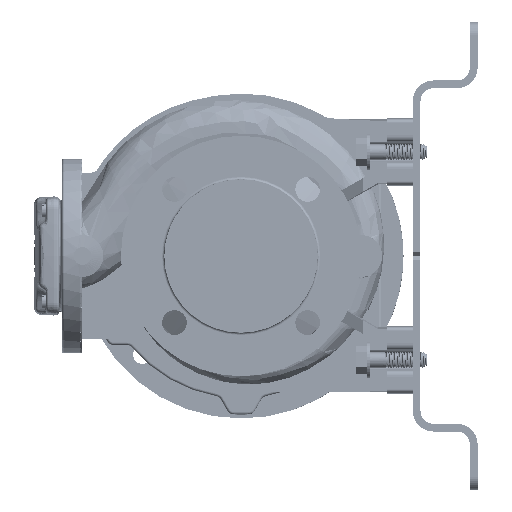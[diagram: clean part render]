
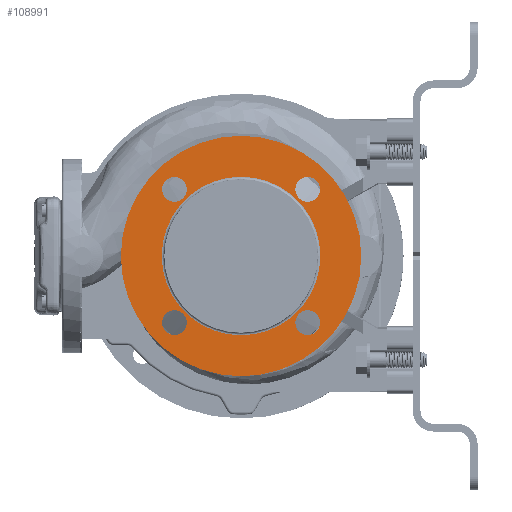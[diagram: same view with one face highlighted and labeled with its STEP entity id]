
A CAD part, left-side view. The second image highlights one B-rep face of the part: STEP entity #108991.
In plain terms, the highlighted planar face has unit normal (-1, 0, 0).
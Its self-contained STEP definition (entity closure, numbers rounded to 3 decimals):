
#244 = CARTESIAN_POINT ( 'NONE',  ( -145.172, 117.924, 305.51 ) ) ;
#10655 = ORIENTED_EDGE ( 'NONE', *, *, #70232, .T. ) ;
#11379 = DIRECTION ( 'NONE',  ( -1., 0., 0. ) ) ;
#13608 = ORIENTED_EDGE ( 'NONE', *, *, #145361, .F. ) ;
#14553 = ORIENTED_EDGE ( 'NONE', *, *, #141093, .F. ) ;
#15740 = DIRECTION ( 'NONE',  ( -1., 0., 0. ) ) ;
#16733 = AXIS2_PLACEMENT_3D ( 'NONE', #134077, #195449, #42757 ) ;
#16862 = CIRCLE ( 'NONE', #119906, 61. ) ;
#17533 = CARTESIAN_POINT ( 'NONE',  ( -145.172, 210.954, 305.51 ) ) ;
#21343 = DIRECTION ( 'NONE',  ( 0., 1., 0. ) ) ;
#25344 = CARTESIAN_POINT ( 'NONE',  ( -145.172, 220.454, 202.98 ) ) ;
#25512 = EDGE_CURVE ( 'NONE', #180375, #138981, #186936, .T. ) ;
#26509 = DIRECTION ( 'NONE',  ( 0., 0., -1. ) ) ;
#27076 = CARTESIAN_POINT ( 'NONE',  ( -145.172, 108.189, 254.245 ) ) ;
#29177 = DIRECTION ( 'NONE',  ( -1., 0., 0. ) ) ;
#30927 = CARTESIAN_POINT ( 'NONE',  ( -145.172, 127.424, 202.98 ) ) ;
#32546 = CARTESIAN_POINT ( 'NONE',  ( -145.172, 230.189, 254.245 ) ) ;
#32707 = CIRCLE ( 'NONE', #109836, 92.5 ) ;
#35417 = EDGE_LOOP ( 'NONE', ( #10655, #193227 ) ) ;
#36608 = EDGE_LOOP ( 'NONE', ( #14553, #13608 ) ) ;
#38274 = CARTESIAN_POINT ( 'NONE',  ( -145.172, 76.689, 254.245 ) ) ;
#38552 = CARTESIAN_POINT ( 'NONE',  ( -145.172, 169.189, 254.245 ) ) ;
#41509 = DIRECTION ( 'NONE',  ( -1., 0., 0. ) ) ;
#42270 = CARTESIAN_POINT ( 'NONE',  ( -145.172, 108.424, 202.98 ) ) ;
#42744 = CARTESIAN_POINT ( 'NONE',  ( -145.172, 230.189, 254.245 ) ) ;
#42757 = DIRECTION ( 'NONE',  ( 0., 1., 0. ) ) ;
#42865 = CARTESIAN_POINT ( 'NONE',  ( -145.172, 229.954, 202.98 ) ) ;
#46588 = PLANE ( 'NONE',  #115184 ) ;
#52411 = DIRECTION ( 'NONE',  ( -1., 0., 0. ) ) ;
#52419 = EDGE_CURVE ( 'NONE', #155518, #83356, #135887, .T. ) ;
#53370 = CIRCLE ( 'NONE', #62973, 92.5 ) ;
#53593 = DIRECTION ( 'NONE',  ( 0., -1., 0. ) ) ;
#54743 = FACE_BOUND ( 'NONE', #108951, .T. ) ;
#55053 = DIRECTION ( 'NONE',  ( 0., -1., 0. ) ) ;
#55910 = VERTEX_POINT ( 'NONE', #42270 ) ;
#57369 = EDGE_LOOP ( 'NONE', ( #139936, #197416 ) ) ;
#57995 = CARTESIAN_POINT ( 'NONE',  ( -145.172, 169.189, 254.245 ) ) ;
#58083 = DIRECTION ( 'NONE',  ( 0., 0., 1. ) ) ;
#58511 = CARTESIAN_POINT ( 'NONE',  ( -145.172, 127.424, 305.51 ) ) ;
#58723 = DIRECTION ( 'NONE',  ( 1., 0., 0. ) ) ;
#60634 = CARTESIAN_POINT ( 'NONE',  ( -145.172, 220.454, 305.51 ) ) ;
#60676 = FACE_BOUND ( 'NONE', #96359, .T. ) ;
#61618 = DIRECTION ( 'NONE',  ( 0., -1., 0. ) ) ;
#62973 = AXIS2_PLACEMENT_3D ( 'NONE', #79269, #29177, #183817 ) ;
#64412 = VERTEX_POINT ( 'NONE', #120709 ) ;
#65115 = EDGE_CURVE ( 'NONE', #138981, #180375, #16862, .T. ) ;
#65434 = AXIS2_PLACEMENT_3D ( 'NONE', #71689, #99830, #26509 ) ;
#66497 = CARTESIAN_POINT ( 'NONE',  ( -145.172, 117.924, 202.98 ) ) ;
#67618 = AXIS2_PLACEMENT_3D ( 'NONE', #103659, #101664, #89570 ) ;
#68035 = VERTEX_POINT ( 'NONE', #38274 ) ;
#69350 = VERTEX_POINT ( 'NONE', #17533 ) ;
#70232 = EDGE_CURVE ( 'NONE', #68035, #72121, #53370, .T. ) ;
#71205 = CIRCLE ( 'NONE', #16733, 9.5 ) ;
#71689 = CARTESIAN_POINT ( 'NONE',  ( -145.172, 117.924, 305.51 ) ) ;
#72121 = VERTEX_POINT ( 'NONE', #79969 ) ;
#75759 = DIRECTION ( 'NONE',  ( 0., 1., 0. ) ) ;
#75917 = ORIENTED_EDGE ( 'NONE', *, *, #162181, .F. ) ;
#77693 = DIRECTION ( 'NONE',  ( -1., 0., 0. ) ) ;
#79123 = AXIS2_PLACEMENT_3D ( 'NONE', #154424, #119336, #58083 ) ;
#79269 = CARTESIAN_POINT ( 'NONE',  ( -145.172, 169.189, 254.245 ) ) ;
#79969 = CARTESIAN_POINT ( 'NONE',  ( -145.172, 261.689, 254.245 ) ) ;
#80457 = CARTESIAN_POINT ( 'NONE',  ( -145.172, 108.424, 305.51 ) ) ;
#83356 = VERTEX_POINT ( 'NONE', #80457 ) ;
#83662 = CIRCLE ( 'NONE', #147889, 9.5 ) ;
#84997 = EDGE_CURVE ( 'NONE', #55910, #183479, #71205, .T. ) ;
#89570 = DIRECTION ( 'NONE',  ( 0., -1., 0. ) ) ;
#89890 = ORIENTED_EDGE ( 'NONE', *, *, #52419, .F. ) ;
#92579 = AXIS2_PLACEMENT_3D ( 'NONE', #25344, #134665, #163930 ) ;
#96359 = EDGE_LOOP ( 'NONE', ( #116817, #197914 ) ) ;
#99830 = DIRECTION ( 'NONE',  ( -1., 0., 0. ) ) ;
#100358 = CIRCLE ( 'NONE', #180564, 9.5 ) ;
#101664 = DIRECTION ( 'NONE',  ( -1., 0., 0. ) ) ;
#103659 = CARTESIAN_POINT ( 'NONE',  ( -145.172, 220.454, 305.51 ) ) ;
#104337 = EDGE_CURVE ( 'NONE', #183479, #55910, #100358, .T. ) ;
#106876 = FACE_BOUND ( 'NONE', #57369, .T. ) ;
#108951 = EDGE_LOOP ( 'NONE', ( #75917, #89890 ) ) ;
#108991 = ADVANCED_FACE ( 'NONE', ( #54743, #106876, #135974, #60676, #121899, #170161 ), #46588, .F. ) ;
#109836 = AXIS2_PLACEMENT_3D ( 'NONE', #57995, #15740, #181518 ) ;
#111792 = CIRCLE ( 'NONE', #92579, 9.5 ) ;
#113341 = CARTESIAN_POINT ( 'NONE',  ( -145.172, 169.189, 254.245 ) ) ;
#115184 = AXIS2_PLACEMENT_3D ( 'NONE', #32546, #58723, #75759 ) ;
#116364 = AXIS2_PLACEMENT_3D ( 'NONE', #38552, #41509, #53593 ) ;
#116817 = ORIENTED_EDGE ( 'NONE', *, *, #120581, .F. ) ;
#119336 = DIRECTION ( 'NONE',  ( -1., 0., 0. ) ) ;
#119906 = AXIS2_PLACEMENT_3D ( 'NONE', #113341, #176621, #55053 ) ;
#120581 = EDGE_CURVE ( 'NONE', #69350, #64412, #83662, .T. ) ;
#120709 = CARTESIAN_POINT ( 'NONE',  ( -145.172, 229.954, 305.51 ) ) ;
#121033 = EDGE_CURVE ( 'NONE', #64412, #69350, #154206, .T. ) ;
#121899 = FACE_BOUND ( 'NONE', #182966, .T. ) ;
#127048 = CARTESIAN_POINT ( 'NONE',  ( -145.172, 210.954, 202.98 ) ) ;
#134077 = CARTESIAN_POINT ( 'NONE',  ( -145.172, 117.924, 202.98 ) ) ;
#134665 = DIRECTION ( 'NONE',  ( -1., 0., 0. ) ) ;
#135887 = CIRCLE ( 'NONE', #65434, 9.5 ) ;
#135974 = FACE_BOUND ( 'NONE', #36608, .T. ) ;
#138981 = VERTEX_POINT ( 'NONE', #42744 ) ;
#139936 = ORIENTED_EDGE ( 'NONE', *, *, #84997, .F. ) ;
#141093 = EDGE_CURVE ( 'NONE', #150595, #153460, #181802, .T. ) ;
#142342 = CIRCLE ( 'NONE', #168100, 9.5 ) ;
#145361 = EDGE_CURVE ( 'NONE', #153460, #150595, #111792, .T. ) ;
#147889 = AXIS2_PLACEMENT_3D ( 'NONE', #60634, #77693, #61618 ) ;
#150595 = VERTEX_POINT ( 'NONE', #127048 ) ;
#153460 = VERTEX_POINT ( 'NONE', #42865 ) ;
#154206 = CIRCLE ( 'NONE', #67618, 9.5 ) ;
#154424 = CARTESIAN_POINT ( 'NONE',  ( -145.172, 220.454, 202.98 ) ) ;
#155518 = VERTEX_POINT ( 'NONE', #58511 ) ;
#162181 = EDGE_CURVE ( 'NONE', #83356, #155518, #142342, .T. ) ;
#163930 = DIRECTION ( 'NONE',  ( 0., 0., 1. ) ) ;
#166011 = ORIENTED_EDGE ( 'NONE', *, *, #25512, .F. ) ;
#168100 = AXIS2_PLACEMENT_3D ( 'NONE', #244, #11379, #180111 ) ;
#170161 = FACE_OUTER_BOUND ( 'NONE', #35417, .T. ) ;
#174493 = EDGE_CURVE ( 'NONE', #72121, #68035, #32707, .T. ) ;
#176621 = DIRECTION ( 'NONE',  ( -1., 0., 0. ) ) ;
#179389 = ORIENTED_EDGE ( 'NONE', *, *, #65115, .F. ) ;
#180111 = DIRECTION ( 'NONE',  ( 0., 0., -1. ) ) ;
#180375 = VERTEX_POINT ( 'NONE', #27076 ) ;
#180564 = AXIS2_PLACEMENT_3D ( 'NONE', #66497, #52411, #21343 ) ;
#181518 = DIRECTION ( 'NONE',  ( 0., -1., 0. ) ) ;
#181802 = CIRCLE ( 'NONE', #79123, 9.5 ) ;
#182966 = EDGE_LOOP ( 'NONE', ( #166011, #179389 ) ) ;
#183479 = VERTEX_POINT ( 'NONE', #30927 ) ;
#183817 = DIRECTION ( 'NONE',  ( 0., -1., 0. ) ) ;
#186936 = CIRCLE ( 'NONE', #116364, 61. ) ;
#193227 = ORIENTED_EDGE ( 'NONE', *, *, #174493, .T. ) ;
#195449 = DIRECTION ( 'NONE',  ( -1., 0., 0. ) ) ;
#197416 = ORIENTED_EDGE ( 'NONE', *, *, #104337, .F. ) ;
#197914 = ORIENTED_EDGE ( 'NONE', *, *, #121033, .F. ) ;
